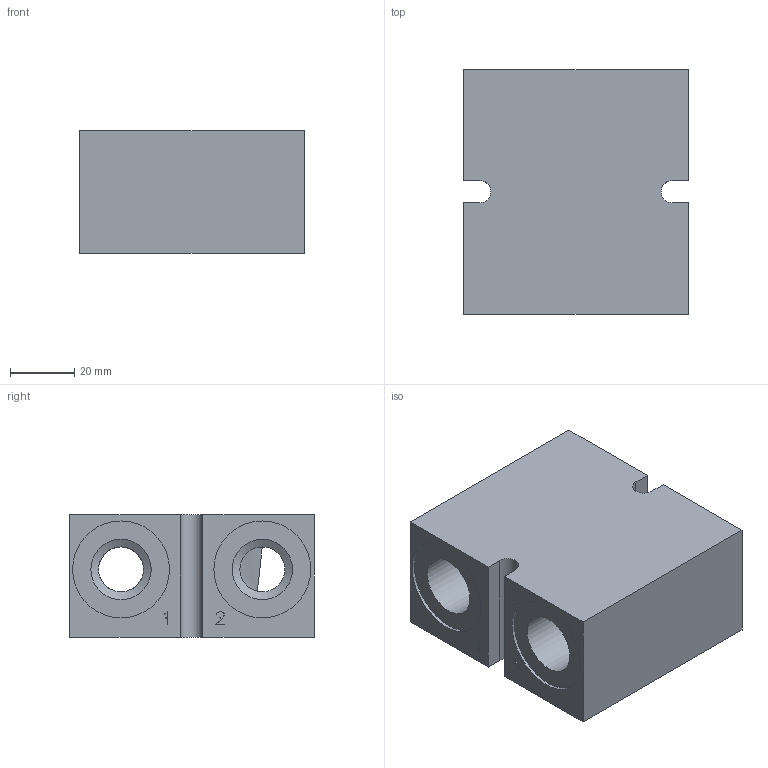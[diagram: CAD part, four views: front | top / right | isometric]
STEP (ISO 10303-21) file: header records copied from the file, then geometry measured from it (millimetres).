
FILE_DESCRIPTION( ( 'Unknown' ), '1' );
FILE_NAME( 'G:/Graphic Design/Graphic Design 2/Data Sheets/Delta Bodies/3_STP/B-DDEC4.stp', 'Unknown', ( 'Unknown' ), ( 'Unknown' ), 'PSStep 16.0.42', 'Unknown', ' ' );
FILE_SCHEMA( ( 'AUTOMOTIVE_DESIGN { 1 0 10303 214 1 1 1 1 }' ) );
Length unit declared in the file: millimetre
Products named in the file (1): 1
Bounding box: 70 x 76.2 x 38.1 mm (x, y, z)
Surface area: 30902.8 mm2 (no closed solid volume)
Topology: 0 solids, 135 shells, 135 faces, 673 edges, 638 vertices
Faces by surface type: plane 99, cylinder 27, cone 9
Full cylindrical faces by diameter (mm): 0.2 x4, 14 x4, 15.9 x1, 17.043 x1, 18.8 x8, 20.262 x2, 30.17 x4, 30.175 x1
Entity records: 7392 total; most frequent: CARTESIAN_POINT 2036, DIRECTION 688, ORIENTED_EDGE 618, EDGE_CURVE 618, VERTEX_POINT 618, B_SPLINE_CURVE_WITH_KNOTS 304, AXIS2_PLACEMENT_3D 238, LINE 212
